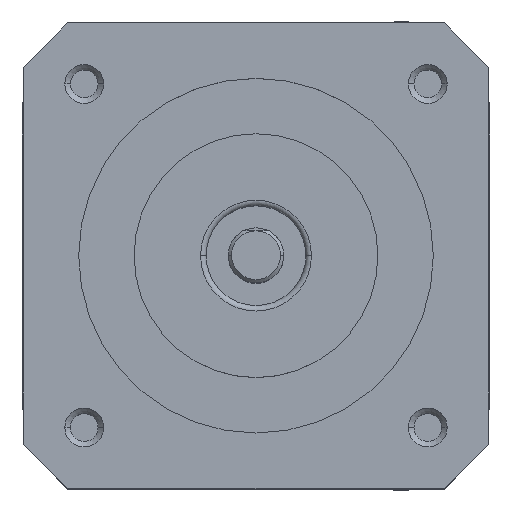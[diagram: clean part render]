
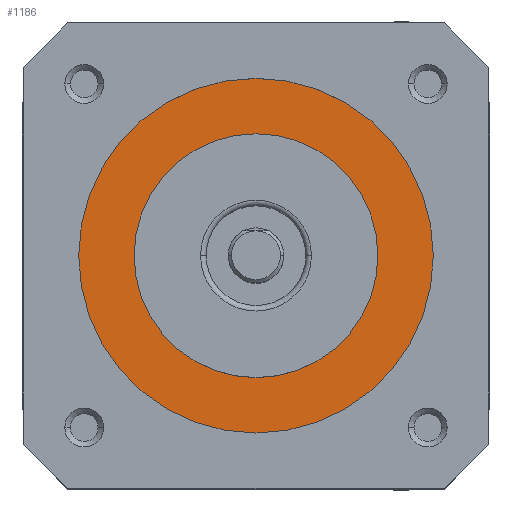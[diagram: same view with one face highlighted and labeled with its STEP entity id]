
A CAD part, top view. The second image highlights one B-rep face of the part: STEP entity #1186.
In plain terms, the highlighted planar face has unit normal (0, 0, 1).
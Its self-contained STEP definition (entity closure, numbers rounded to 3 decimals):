
#1186 = ADVANCED_FACE ( 'NONE', ( #1767, #1768 ), #3466, .T. ) ;
#1480 = EDGE_CURVE ( 'NONE', #5314, #5307, #4585, .T. ) ;
#1481 = EDGE_CURVE ( 'NONE', #5300, #5322, #4821, .T. ) ;
#1501 = EDGE_CURVE ( 'NONE', #5307, #5314, #4851, .T. ) ;
#1513 = EDGE_CURVE ( 'NONE', #5322, #5300, #4846, .T. ) ;
#1767 = FACE_BOUND ( 'NONE', #5497, .T. ) ;
#1768 = FACE_OUTER_BOUND ( 'NONE', #5489, .T. ) ;
#2337 = AXIS2_PLACEMENT_3D ( 'NONE', #3467, #3468, #3469 ) ;
#2408 = ORIENTED_EDGE ( 'NONE', *, *, #1480, .T. ) ;
#2410 = ORIENTED_EDGE ( 'NONE', *, *, #1481, .F. ) ;
#2412 = ORIENTED_EDGE ( 'NONE', *, *, #1513, .F. ) ;
#2413 = ORIENTED_EDGE ( 'NONE', *, *, #1501, .T. ) ;
#3466 = PLANE ( 'NONE',  #2337 ) ;
#3467 = CARTESIAN_POINT ( 'NONE',  ( 0., 0., 7.7 ) ) ;
#3468 = DIRECTION ( 'NONE',  ( 0., 0., 1. ) ) ;
#3469 = DIRECTION ( 'NONE',  ( 1., 0., 0. ) ) ;
#3917 = CARTESIAN_POINT ( 'NONE',  ( -11., 0., 7.7 ) ) ;
#3924 = CARTESIAN_POINT ( 'NONE',  ( -16., 0., 7.7 ) ) ;
#3931 = CARTESIAN_POINT ( 'NONE',  ( 16., 0., 7.7 ) ) ;
#3939 = CARTESIAN_POINT ( 'NONE',  ( 11., 0., 7.7 ) ) ;
#4585 = CIRCLE ( 'NONE', #4820, 16. ) ;
#4784 = CARTESIAN_POINT ( 'NONE',  ( 0., 0., 7.7 ) ) ;
#4785 = DIRECTION ( 'NONE',  ( 0., 0., 1. ) ) ;
#4786 = DIRECTION ( 'NONE',  ( 1., 0., 0. ) ) ;
#4787 = CARTESIAN_POINT ( 'NONE',  ( 0., 0., 7.7 ) ) ;
#4788 = DIRECTION ( 'NONE',  ( 0., 0., 1. ) ) ;
#4789 = DIRECTION ( 'NONE',  ( 1., 0., 0. ) ) ;
#4820 = AXIS2_PLACEMENT_3D ( 'NONE', #4784, #4785, #4786 ) ;
#4821 = CIRCLE ( 'NONE', #4823, 11. ) ;
#4823 = AXIS2_PLACEMENT_3D ( 'NONE', #4787, #4788, #4789 ) ;
#4846 = CIRCLE ( 'NONE', #4866, 11. ) ;
#4851 = CIRCLE ( 'NONE', #4852, 16. ) ;
#4852 = AXIS2_PLACEMENT_3D ( 'NONE', #4935, #4936, #4937 ) ;
#4866 = AXIS2_PLACEMENT_3D ( 'NONE', #4963, #4964, #4965 ) ;
#4935 = CARTESIAN_POINT ( 'NONE',  ( 0., 0., 7.7 ) ) ;
#4936 = DIRECTION ( 'NONE',  ( 0., 0., 1. ) ) ;
#4937 = DIRECTION ( 'NONE',  ( 1., 0., 0. ) ) ;
#4963 = CARTESIAN_POINT ( 'NONE',  ( 0., 0., 7.7 ) ) ;
#4964 = DIRECTION ( 'NONE',  ( 0., 0., 1. ) ) ;
#4965 = DIRECTION ( 'NONE',  ( 1., 0., 0. ) ) ;
#5300 = VERTEX_POINT ( 'NONE', #3917 ) ;
#5307 = VERTEX_POINT ( 'NONE', #3924 ) ;
#5314 = VERTEX_POINT ( 'NONE', #3931 ) ;
#5322 = VERTEX_POINT ( 'NONE', #3939 ) ;
#5489 = EDGE_LOOP ( 'NONE', ( #2408, #2413 ) ) ;
#5497 = EDGE_LOOP ( 'NONE', ( #2410, #2412 ) ) ;
